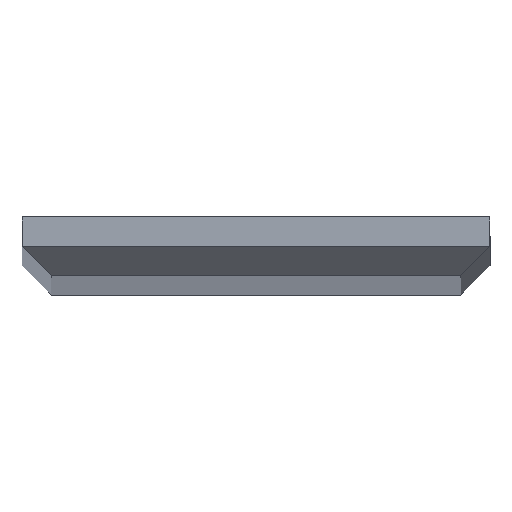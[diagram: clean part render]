
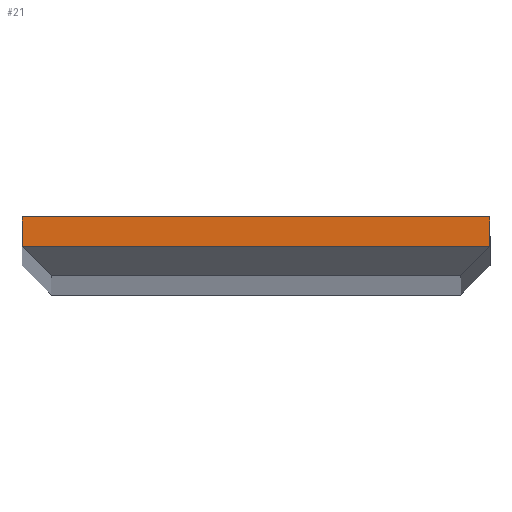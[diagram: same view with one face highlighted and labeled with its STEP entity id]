
A CAD part, top view. The second image highlights one B-rep face of the part: STEP entity #21.
In plain terms, the highlighted planar face has unit normal (0, 0, 1).
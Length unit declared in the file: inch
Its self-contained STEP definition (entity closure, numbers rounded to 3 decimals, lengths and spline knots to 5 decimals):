
#21=ADVANCED_FACE('',(#31),#143,.T.);
#31=FACE_OUTER_BOUND('',#41,.T.);
#41=EDGE_LOOP('',(#72,#73,#74,#75));
#72=ORIENTED_EDGE('',*,*,#90,.F.);
#73=ORIENTED_EDGE('',*,*,#101,.T.);
#74=ORIENTED_EDGE('',*,*,#102,.T.);
#75=ORIENTED_EDGE('',*,*,#99,.F.);
#90=EDGE_CURVE('',#129,#126,#110,.T.);
#99=EDGE_CURVE('',#126,#134,#119,.T.);
#101=EDGE_CURVE('',#129,#135,#121,.T.);
#102=EDGE_CURVE('',#135,#134,#122,.T.);
#110=B_SPLINE_CURVE_WITH_KNOTS('',1,(#297,#298),.UNSPECIFIED.,.F.,.F.,(2,
2),(0.,4.),.UNSPECIFIED.);
#119=B_SPLINE_CURVE_WITH_KNOTS('',1,(#315,#316),.UNSPECIFIED.,.F.,.F.,(2,
2),(0.,0.25),.UNSPECIFIED.);
#121=B_SPLINE_CURVE_WITH_KNOTS('',1,(#319,#320),.UNSPECIFIED.,.F.,.F.,(2,
2),(0.,0.25),.UNSPECIFIED.);
#122=B_SPLINE_CURVE_WITH_KNOTS('',1,(#321,#322),.UNSPECIFIED.,.F.,.F.,(2,
2),(0.,4.),.UNSPECIFIED.);
#126=VERTEX_POINT('',#275);
#129=VERTEX_POINT('',#278);
#134=VERTEX_POINT('',#283);
#135=VERTEX_POINT('',#284);
#143=PLANE('',#244);
#244=AXIS2_PLACEMENT_3D('',#270,#257,$);
#257=DIRECTION('',(0.,0.,1.));
#270=CARTESIAN_POINT('',(2.40472,0.62972,48.));
#275=CARTESIAN_POINT('',(-2.,-0.25,48.));
#278=CARTESIAN_POINT('',(2.,-0.25,48.));
#283=CARTESIAN_POINT('',(-2.,0.,48.));
#284=CARTESIAN_POINT('',(2.,0.,48.));
#297=CARTESIAN_POINT('',(2.,-0.25,48.));
#298=CARTESIAN_POINT('',(-2.,-0.25,48.));
#315=CARTESIAN_POINT('',(-2.,-0.25,48.));
#316=CARTESIAN_POINT('',(-2.,0.,48.));
#319=CARTESIAN_POINT('',(2.,-0.25,48.));
#320=CARTESIAN_POINT('',(2.,0.,48.));
#321=CARTESIAN_POINT('',(2.,0.,48.));
#322=CARTESIAN_POINT('',(-2.,0.,48.));
